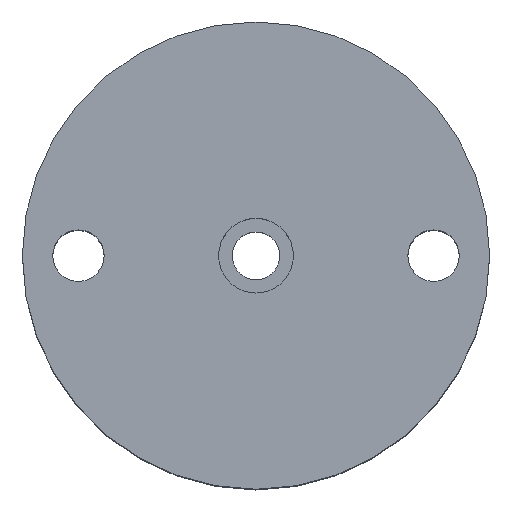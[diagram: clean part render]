
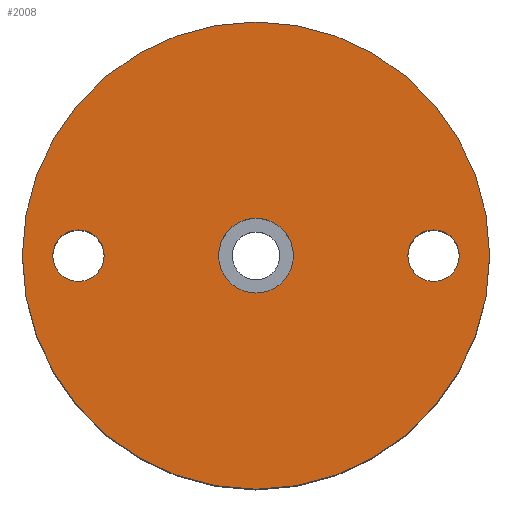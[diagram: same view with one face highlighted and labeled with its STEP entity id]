
A CAD part, top view. The second image highlights one B-rep face of the part: STEP entity #2008.
In plain terms, the highlighted planar face has unit normal (0, 0, 1).
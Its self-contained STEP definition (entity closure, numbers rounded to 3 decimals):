
#1795=CARTESIAN_POINT('Vertex',(32.5,0.,0.)) ;
#1798=CARTESIAN_POINT('Axis2P3D Location',(38.,0.,0.)) ;
#1802=CARTESIAN_POINT('Vertex',(43.5,0.,0.)) ;
#1933=CARTESIAN_POINT('Axis2P3D Location',(38.,0.,0.)) ;
#1945=CARTESIAN_POINT('Axis2P3D Location',(0.,0.,0.)) ;
#1950=CARTESIAN_POINT('Axis2P3D Location',(0.,0.,0.)) ;
#1954=CARTESIAN_POINT('Vertex',(50.,0.,0.)) ;
#1956=CARTESIAN_POINT('Vertex',(-50.,0.,0.)) ;
#1959=CARTESIAN_POINT('Axis2P3D Location',(0.,0.,0.)) ;
#1972=CARTESIAN_POINT('Axis2P3D Location',(-38.,0.,0.)) ;
#1976=CARTESIAN_POINT('Vertex',(-32.5,0.,0.)) ;
#1978=CARTESIAN_POINT('Vertex',(-43.5,0.,0.)) ;
#1981=CARTESIAN_POINT('Axis2P3D Location',(-38.,0.,0.)) ;
#1990=CARTESIAN_POINT('Axis2P3D Location',(0.,0.,0.)) ;
#1994=CARTESIAN_POINT('Vertex',(8.,0.,0.)) ;
#1996=CARTESIAN_POINT('Vertex',(-8.,0.,0.)) ;
#1999=CARTESIAN_POINT('Axis2P3D Location',(0.,0.,0.)) ;
#1799=DIRECTION('Axis2P3D Direction',(0.,-0.,1.)) ;
#1934=DIRECTION('Axis2P3D Direction',(0.,-0.,1.)) ;
#1946=DIRECTION('Axis2P3D Direction',(0.,0.,1.)) ;
#1947=DIRECTION('Axis2P3D XDirection',(1.,0.,-0.)) ;
#1951=DIRECTION('Axis2P3D Direction',(0.,0.,1.)) ;
#1960=DIRECTION('Axis2P3D Direction',(0.,0.,1.)) ;
#1973=DIRECTION('Axis2P3D Direction',(0.,0.,1.)) ;
#1982=DIRECTION('Axis2P3D Direction',(0.,0.,1.)) ;
#1991=DIRECTION('Axis2P3D Direction',(0.,0.,1.)) ;
#2000=DIRECTION('Axis2P3D Direction',(0.,0.,1.)) ;
#1800=AXIS2_PLACEMENT_3D('Circle Axis2P3D',#1798,#1799,$) ;
#1935=AXIS2_PLACEMENT_3D('Circle Axis2P3D',#1933,#1934,$) ;
#1948=AXIS2_PLACEMENT_3D('Plane Axis2P3D',#1945,#1946,#1947) ;
#1952=AXIS2_PLACEMENT_3D('Circle Axis2P3D',#1950,#1951,$) ;
#1961=AXIS2_PLACEMENT_3D('Circle Axis2P3D',#1959,#1960,$) ;
#1974=AXIS2_PLACEMENT_3D('Circle Axis2P3D',#1972,#1973,$) ;
#1983=AXIS2_PLACEMENT_3D('Circle Axis2P3D',#1981,#1982,$) ;
#1992=AXIS2_PLACEMENT_3D('Circle Axis2P3D',#1990,#1991,$) ;
#2001=AXIS2_PLACEMENT_3D('Circle Axis2P3D',#1999,#2000,$) ;
#1965=ORIENTED_EDGE('',*,*,#1958,.T.) ;
#1966=ORIENTED_EDGE('',*,*,#1963,.T.) ;
#1969=ORIENTED_EDGE('',*,*,#1937,.F.) ;
#1970=ORIENTED_EDGE('',*,*,#1804,.F.) ;
#1987=ORIENTED_EDGE('',*,*,#1980,.F.) ;
#1988=ORIENTED_EDGE('',*,*,#1985,.F.) ;
#2005=ORIENTED_EDGE('',*,*,#1998,.F.) ;
#2006=ORIENTED_EDGE('',*,*,#2003,.F.) ;
#1971=FACE_BOUND('',#1968,.T.) ;
#1989=FACE_BOUND('',#1986,.T.) ;
#2007=FACE_BOUND('',#2004,.T.) ;
#2008=ADVANCED_FACE('Foro \X2\00D8\X0\11.0 (11)-1',(#1967,#1971,#1989,#2007),#1949,.T.) ;
#1801=CIRCLE('generated circle',#1800,5.5) ;
#1936=CIRCLE('generated circle',#1935,5.5) ;
#1953=CIRCLE('generated circle',#1952,50.) ;
#1962=CIRCLE('generated circle',#1961,50.) ;
#1975=CIRCLE('generated circle',#1974,5.5) ;
#1984=CIRCLE('generated circle',#1983,5.5) ;
#1993=CIRCLE('generated circle',#1992,8.) ;
#2002=CIRCLE('generated circle',#2001,8.) ;
#1804=EDGE_CURVE('',#1796,#1803,#1801,.T.) ;
#1937=EDGE_CURVE('',#1803,#1796,#1936,.T.) ;
#1958=EDGE_CURVE('',#1955,#1957,#1953,.T.) ;
#1963=EDGE_CURVE('',#1957,#1955,#1962,.T.) ;
#1980=EDGE_CURVE('',#1977,#1979,#1975,.T.) ;
#1985=EDGE_CURVE('',#1979,#1977,#1984,.T.) ;
#1998=EDGE_CURVE('',#1995,#1997,#1993,.T.) ;
#2003=EDGE_CURVE('',#1997,#1995,#2002,.T.) ;
#1964=EDGE_LOOP('',(#1965,#1966)) ;
#1968=EDGE_LOOP('',(#1969,#1970)) ;
#1986=EDGE_LOOP('',(#1987,#1988)) ;
#2004=EDGE_LOOP('',(#2005,#2006)) ;
#1967=FACE_OUTER_BOUND('',#1964,.T.) ;
#1949=PLANE('Plane',#1948) ;
#1796=VERTEX_POINT('',#1795) ;
#1803=VERTEX_POINT('',#1802) ;
#1955=VERTEX_POINT('',#1954) ;
#1957=VERTEX_POINT('',#1956) ;
#1977=VERTEX_POINT('',#1976) ;
#1979=VERTEX_POINT('',#1978) ;
#1995=VERTEX_POINT('',#1994) ;
#1997=VERTEX_POINT('',#1996) ;
